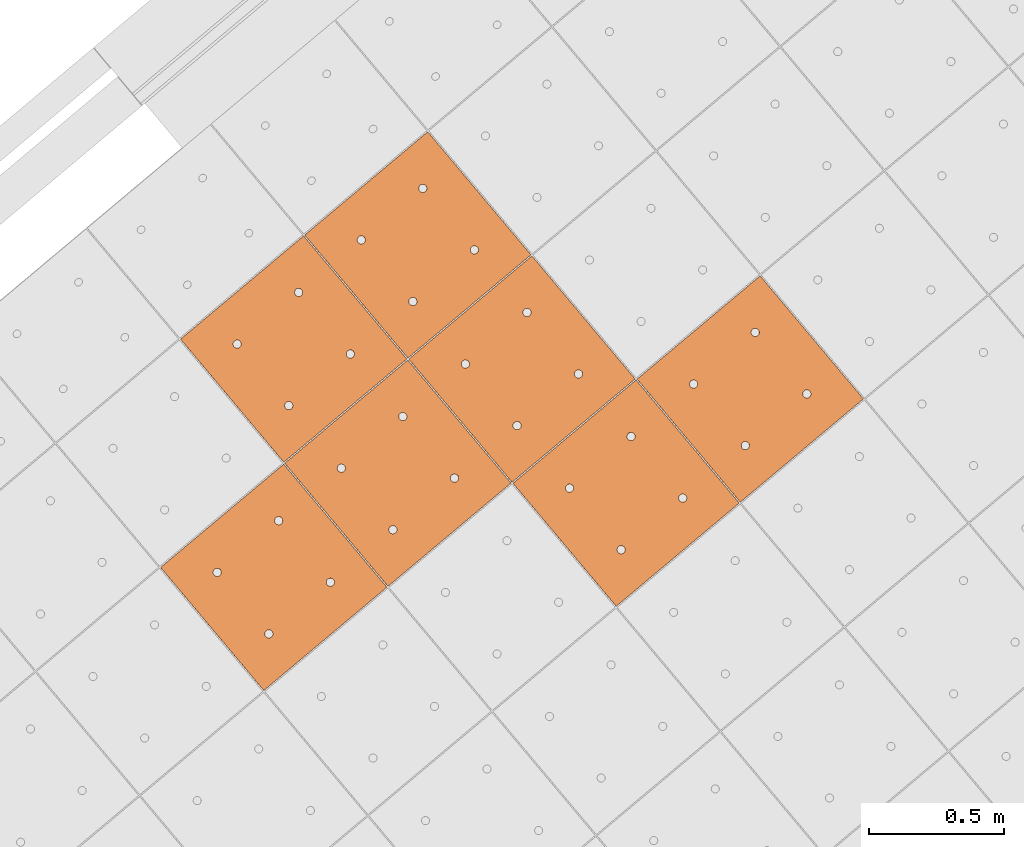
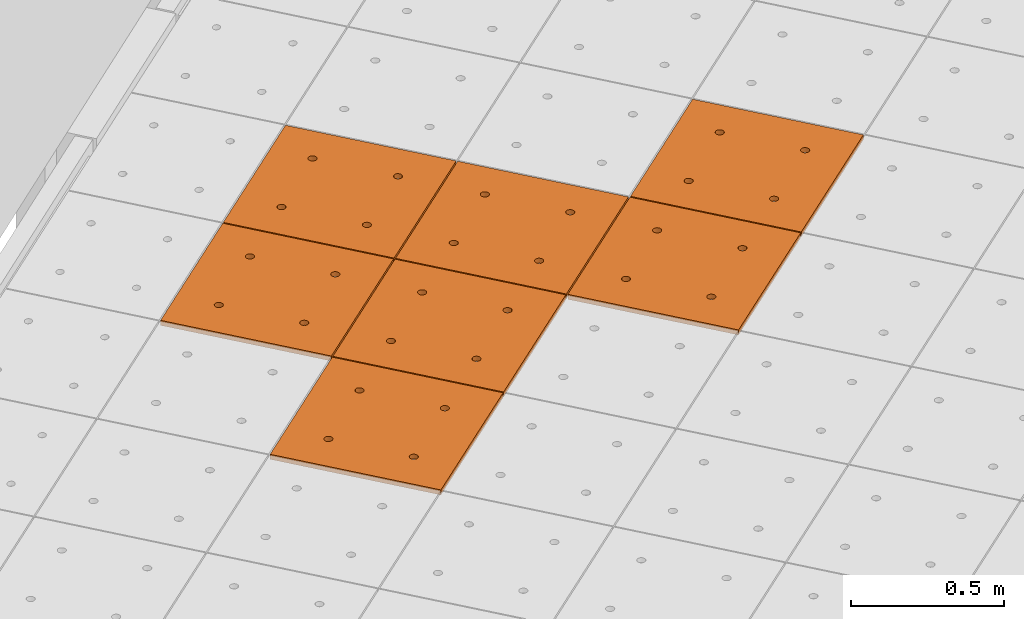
# One storey, part 171 of 338: 7 proxies, 1 element without a shape of its own.
"""IFC2X3 building model written with IfcOpenShell, lengths in millimetres."""

from ifc_helpers import new_model, entity, si_unit, converted_unit, derived_unit, money_unit, direction, frame, origin_with_axes, place, context, subcontext, project, spatial, faceted_brep, source, transform, mapped, material, type_object, type_shapes, element, aggregate, save


model = new_model("IFC2X3")

# Units and contexts
model_context = context("Model", 3, precision=0.01, world=origin_with_axes(), true_north=direction((0.0, 1.0)))
plan_context = context("Plan", 3, precision=0.01, world=origin_with_axes(), true_north=direction((0.0, 1.0)))
body_context = subcontext(model_context, "Body", "Model", "MODEL_VIEW")
ifc_project = project(units=[si_unit("LENGTHUNIT", "METRE", prefix="MILLI"), si_unit("AREAUNIT", "SQUARE_METRE"), si_unit("VOLUMEUNIT", "CUBIC_METRE"), converted_unit("PLANEANGLEUNIT", "DEGREE", entity("IfcPlaneAngleMeasure", 0.0174532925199), si_unit("PLANEANGLEUNIT", "RADIAN"), dimensions=[0, 0, 0, 0, 0, 0, 0]), money_unit("EUR"), converted_unit("TIMEUNIT", "Year", entity("IfcTimeMeasure", 31556926.0), si_unit("TIMEUNIT", "SECOND"), dimensions=[0, 0, 1, 0, 0, 0, 0]), si_unit("MASSUNIT", "GRAM", prefix="KILO"), si_unit("THERMODYNAMICTEMPERATUREUNIT", "DEGREE_CELSIUS"), si_unit("LUMINOUSINTENSITYUNIT", "LUMEN"), si_unit("ENERGYUNIT", "JOULE", prefix="MEGA"), derived_unit("THERMALCONDUCTANCEUNIT", [(si_unit("POWERUNIT", "WATT"), 1), (si_unit("LENGTHUNIT", "METRE"), -1), (si_unit("THERMODYNAMICTEMPERATUREUNIT", "KELVIN"), -1)]), derived_unit("SPECIFICHEATCAPACITYUNIT", [(si_unit("ENERGYUNIT", "JOULE"), 1), (si_unit("MASSUNIT", "GRAM", prefix="KILO"), -1), (si_unit("THERMODYNAMICTEMPERATUREUNIT", "KELVIN"), -1)]), derived_unit("MASSDENSITYUNIT", [(si_unit("MASSUNIT", "GRAM", prefix="KILO"), 1), (si_unit("VOLUMEUNIT", "CUBIC_METRE"), -1)])], contexts=[model_context, plan_context])

# Site, building, storey
site_placement = place(None, origin_with_axes())
site = spatial("IfcSite", under=ifc_project, at=site_placement, Name="Fortuinstraat Woensdrecht", CompositionType="ELEMENT")
building_placement = place(site_placement, origin_with_axes())
building = spatial("IfcBuilding", under=site, at=building_placement, Name="IKC Fortuna", CompositionType="ELEMENT")
storey_placement = place(building_placement, origin_with_axes())
storey = spatial("IfcBuildingStorey", under=building, at=storey_placement, Name="00 begane grond", CompositionType="ELEMENT", Elevation=0.0)

# Covering, proxies
covering_type = type_object("IfcCoveringType", Name="Curtain Wall Type", PredefinedType="CEILING")
covering_placement = place(storey_placement, frame((15863.124366, 4456.31398675, 4619.99995334), z_axis=(0.0, 0.0, 1.0), x_axis=(1.0, 0.0, 0.0)))
covering = element("IfcCovering", 1, at=covering_placement, inside=storey, type_object=covering_type, Name="45_Plafondafwerking_P01", PredefinedType="CEILING")
ifc_material = material(Name="Gipsplaat")
building_element_proxy_type = type_object("IfcBuildingElementProxyType", Name="Main Panel 600 x 600 x 20", PredefinedType="NOTDEFINED")
shared_shape = source(origin_with_axes(), body_context, "Body", "Brep", [
    faceted_brep([(2.50000262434, 2.50000269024, -10.0), (299.999999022, 2.50000269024, -10.0), (299.999999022, 2.50000269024, 10.0), (2.50000262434, 2.50000269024, 10.0), (2.50000262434, 300.000003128, -10.0), (2.50000262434, 597.500003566, -10.0), (299.999999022, 597.500003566, -10.0), (597.499995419, 597.500003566, -10.0), (597.499995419, 300.000003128, -10.0), (597.499995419, 2.50000269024, -10.0), (166.250000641, 450.062333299, -10.0), (165.794233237, 452.647118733, -10.0), (164.896546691, 455.113492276, -10.0), (163.584216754, 457.386514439, -10.0), (161.897117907, 459.397120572, -10.0), (159.886511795, 461.084219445, -10.0), (157.613489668, 462.396549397, -10.0), (155.147116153, 463.294235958, -10.0), (152.56233076, 463.750003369, -10.0), (149.937670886, 463.750003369, -10.0), (147.352885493, 463.294235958, -10.0), (144.886511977, 462.396549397, -10.0), (142.61348985, 461.084219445, -10.0), (140.602883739, 459.397120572, -10.0), (138.915784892, 457.386514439, -10.0), (137.603454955, 455.113492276, -10.0), (136.705768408, 452.647118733, -10.0), (136.250001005, 450.062333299, -10.0), (136.250001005, 448.750003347, -10.0), (136.250001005, 447.437673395, -10.0), (136.705768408, 444.852887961, -10.0), (137.603454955, 442.386514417, -10.0), (138.915784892, 440.113492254, -10.0), (140.602883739, 438.102886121, -10.0), (142.61348985, 436.415787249, -10.0), (144.886511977, 435.103457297, -10.0), (147.352885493, 434.205770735, -10.0), (149.937670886, 433.750003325, -10.0), (152.56233076, 433.750003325, -10.0), (155.147116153, 434.205770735, -10.0), (157.613489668, 435.103457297, -10.0), (159.886511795, 436.415787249, -10.0), (161.897117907, 438.102886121, -10.0), (163.584216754, 440.113492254, -10.0), (164.896546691, 442.386514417, -10.0), (165.794233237, 444.852887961, -10.0), (166.250000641, 447.437673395, -10.0), (463.749997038, 450.062333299, -10.0), (463.294229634, 452.647118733, -10.0), (462.396543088, 455.113492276, -10.0), (461.084213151, 457.386514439, -10.0), (459.397114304, 459.397120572, -10.0), (457.386508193, 461.084219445, -10.0), (455.113486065, 462.396549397, -10.0), (452.64711255, 463.294235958, -10.0), (450.062327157, 463.750003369, -10.0), (447.437667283, 463.750003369, -10.0), (444.85288189, 463.294235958, -10.0), (442.386508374, 462.396549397, -10.0), (440.113486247, 461.084219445, -10.0), (438.102880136, 459.397120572, -10.0), (436.415781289, 457.386514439, -10.0), (435.103451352, 455.113492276, -10.0), (434.205764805, 452.647118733, -10.0), (433.749997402, 450.062333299, -10.0), (433.749997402, 448.750003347, -10.0), (433.749997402, 447.437673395, -10.0), (434.205764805, 444.852887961, -10.0), (435.103451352, 442.386514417, -10.0), (436.415781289, 440.113492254, -10.0), (438.102880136, 438.102886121, -10.0), (440.113486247, 436.415787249, -10.0), (442.386508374, 435.103457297, -10.0), (444.85288189, 434.205770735, -10.0), (447.437667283, 433.750003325, -10.0), (450.062327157, 433.750003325, -10.0), (452.64711255, 434.205770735, -10.0), (455.113486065, 435.103457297, -10.0), (457.386508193, 436.415787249, -10.0), (459.397114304, 438.102886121, -10.0), (461.084213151, 440.113492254, -10.0), (462.396543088, 442.386514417, -10.0), (463.294229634, 444.852887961, -10.0), (463.749997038, 447.437673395, -10.0), (463.749997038, 152.562332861, -10.0), (463.294229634, 155.147118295, -10.0), (462.396543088, 157.613491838, -10.0), (461.084213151, 159.886514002, -10.0), (459.397114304, 161.897120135, -10.0), (457.386508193, 163.584219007, -10.0), (455.113486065, 164.896548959, -10.0), (452.64711255, 165.79423552, -10.0), (450.062327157, 166.250002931, -10.0), (447.437667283, 166.250002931, -10.0), (444.85288189, 165.79423552, -10.0), (442.386508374, 164.896548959, -10.0), (440.113486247, 163.584219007, -10.0), (438.102880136, 161.897120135, -10.0), (436.415781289, 159.886514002, -10.0), (435.103451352, 157.613491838, -10.0), (434.205764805, 155.147118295, -10.0), (433.749997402, 152.562332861, -10.0), (433.749997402, 151.250002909, -10.0), (433.749997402, 149.937672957, -10.0), (434.205764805, 147.352887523, -10.0), (435.103451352, 144.88651398, -10.0), (436.415781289, 142.613491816, -10.0), (438.102880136, 140.602885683, -10.0), (440.113486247, 138.915786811, -10.0), (442.386508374, 137.603456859, -10.0), (444.85288189, 136.705770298, -10.0), (447.437667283, 136.250002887, -10.0), (450.062327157, 136.250002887, -10.0), (452.64711255, 136.705770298, -10.0), (455.113486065, 137.603456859, -10.0), (457.386508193, 138.915786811, -10.0), (459.397114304, 140.602885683, -10.0), (461.084213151, 142.613491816, -10.0), (462.396543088, 144.88651398, -10.0), (463.294229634, 147.352887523, -10.0), (463.749997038, 149.937672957, -10.0), (166.250000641, 152.562332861, -10.0), (165.794233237, 155.147118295, -10.0), (164.896546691, 157.613491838, -10.0), (163.584216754, 159.886514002, -10.0), (161.897117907, 161.897120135, -10.0), (159.886511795, 163.584219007, -10.0), (157.613489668, 164.896548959, -10.0), (155.147116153, 165.79423552, -10.0), (152.56233076, 166.250002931, -10.0), (149.937670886, 166.250002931, -10.0), (147.352885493, 165.79423552, -10.0), (144.886511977, 164.896548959, -10.0), (142.61348985, 163.584219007, -10.0), (140.602883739, 161.897120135, -10.0), (138.915784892, 159.886514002, -10.0), (137.603454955, 157.613491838, -10.0), (136.705768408, 155.147118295, -10.0), (136.250001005, 152.562332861, -10.0), (136.250001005, 151.250002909, -10.0), (136.250001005, 149.937672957, -10.0), (136.705768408, 147.352887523, -10.0), (137.603454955, 144.88651398, -10.0), (138.915784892, 142.613491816, -10.0), (140.602883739, 140.602885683, -10.0), (142.61348985, 138.915786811, -10.0), (144.886511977, 137.603456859, -10.0), (147.352885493, 136.705770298, -10.0), (149.937670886, 136.250002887, -10.0), (152.56233076, 136.250002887, -10.0), (155.147116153, 136.705770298, -10.0), (157.613489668, 137.603456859, -10.0), (159.886511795, 138.915786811, -10.0), (161.897117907, 140.602885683, -10.0), (163.584216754, 142.613491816, -10.0), (164.896546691, 144.88651398, -10.0), (165.794233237, 147.352887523, -10.0), (166.250000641, 149.937672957, -10.0), (597.499995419, 2.50000269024, 10.0), (597.499995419, 300.000003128, 10.0), (597.499995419, 597.500003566, 10.0), (299.999999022, 597.500003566, 10.0), (2.50000262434, 597.500003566, 10.0), (2.50000262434, 300.000003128, 10.0), (166.250000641, 450.062333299, 10.0), (166.250000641, 447.437673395, 10.0), (165.794233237, 444.852887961, 10.0), (164.896546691, 442.386514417, 10.0), (163.584216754, 440.113492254, 10.0), (161.897117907, 438.102886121, 10.0), (159.886511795, 436.415787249, 10.0), (157.613489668, 435.103457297, 10.0), (155.147116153, 434.205770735, 10.0), (152.56233076, 433.750003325, 10.0), (149.937670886, 433.750003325, 10.0), (147.352885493, 434.205770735, 10.0), (144.886511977, 435.103457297, 10.0), (142.61348985, 436.415787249, 10.0), (140.602883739, 438.102886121, 10.0), (138.915784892, 440.113492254, 10.0), (137.603454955, 442.386514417, 10.0), (136.705768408, 444.852887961, 10.0), (136.250001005, 447.437673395, 10.0), (136.250001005, 448.750003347, 10.0), (136.250001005, 450.062333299, 10.0), (136.705768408, 452.647118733, 10.0), (137.603454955, 455.113492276, 10.0), (138.915784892, 457.386514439, 10.0), (140.602883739, 459.397120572, 10.0), (142.61348985, 461.084219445, 10.0), (144.886511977, 462.396549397, 10.0), (147.352885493, 463.294235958, 10.0), (149.937670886, 463.750003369, 10.0), (152.56233076, 463.750003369, 10.0), (155.147116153, 463.294235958, 10.0), (157.613489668, 462.396549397, 10.0), (159.886511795, 461.084219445, 10.0), (161.897117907, 459.397120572, 10.0), (163.584216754, 457.386514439, 10.0), (164.896546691, 455.113492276, 10.0), (165.794233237, 452.647118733, 10.0), (463.749997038, 450.062333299, 10.0), (463.749997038, 447.437673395, 10.0), (463.294229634, 444.852887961, 10.0), (462.396543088, 442.386514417, 10.0), (461.084213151, 440.113492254, 10.0), (459.397114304, 438.102886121, 10.0), (457.386508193, 436.415787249, 10.0), (455.113486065, 435.103457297, 10.0), (452.64711255, 434.205770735, 10.0), (450.062327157, 433.750003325, 10.0), (447.437667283, 433.750003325, 10.0), (444.85288189, 434.205770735, 10.0), (442.386508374, 435.103457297, 10.0), (440.113486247, 436.415787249, 10.0), (438.102880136, 438.102886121, 10.0), (436.415781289, 440.113492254, 10.0), (435.103451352, 442.386514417, 10.0), (434.205764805, 444.852887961, 10.0), (433.749997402, 447.437673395, 10.0), (433.749997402, 448.750003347, 10.0), (433.749997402, 450.062333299, 10.0), (434.205764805, 452.647118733, 10.0), (435.103451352, 455.113492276, 10.0), (436.415781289, 457.386514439, 10.0), (438.102880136, 459.397120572, 10.0), (440.113486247, 461.084219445, 10.0), (442.386508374, 462.396549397, 10.0), (444.85288189, 463.294235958, 10.0), (447.437667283, 463.750003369, 10.0), (450.062327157, 463.750003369, 10.0), (452.64711255, 463.294235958, 10.0), (455.113486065, 462.396549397, 10.0), (457.386508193, 461.084219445, 10.0), (459.397114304, 459.397120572, 10.0), (461.084213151, 457.386514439, 10.0), (462.396543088, 455.113492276, 10.0), (463.294229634, 452.647118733, 10.0), (463.749997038, 152.562332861, 10.0), (463.749997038, 149.937672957, 10.0), (463.294229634, 147.352887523, 10.0), (462.396543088, 144.88651398, 10.0), (461.084213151, 142.613491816, 10.0), (459.397114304, 140.602885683, 10.0), (457.386508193, 138.915786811, 10.0), (455.113486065, 137.603456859, 10.0), (452.64711255, 136.705770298, 10.0), (450.062327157, 136.250002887, 10.0), (447.437667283, 136.250002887, 10.0), (444.85288189, 136.705770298, 10.0), (442.386508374, 137.603456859, 10.0), (440.113486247, 138.915786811, 10.0), (438.102880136, 140.602885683, 10.0), (436.415781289, 142.613491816, 10.0), (435.103451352, 144.88651398, 10.0), (434.205764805, 147.352887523, 10.0), (433.749997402, 149.937672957, 10.0), (433.749997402, 151.250002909, 10.0), (433.749997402, 152.562332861, 10.0), (434.205764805, 155.147118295, 10.0), (435.103451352, 157.613491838, 10.0), (436.415781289, 159.886514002, 10.0), (438.102880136, 161.897120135, 10.0), (440.113486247, 163.584219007, 10.0), (442.386508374, 164.896548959, 10.0), (444.85288189, 165.79423552, 10.0), (447.437667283, 166.250002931, 10.0), (450.062327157, 166.250002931, 10.0), (452.64711255, 165.79423552, 10.0), (455.113486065, 164.896548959, 10.0), (457.386508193, 163.584219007, 10.0), (459.397114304, 161.897120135, 10.0), (461.084213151, 159.886514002, 10.0), (462.396543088, 157.613491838, 10.0), (463.294229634, 155.147118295, 10.0), (166.250000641, 152.562332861, 10.0), (166.250000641, 149.937672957, 10.0), (165.794233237, 147.352887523, 10.0), (164.896546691, 144.88651398, 10.0), (163.584216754, 142.613491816, 10.0), (161.897117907, 140.602885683, 10.0), (159.886511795, 138.915786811, 10.0), (157.613489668, 137.603456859, 10.0), (155.147116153, 136.705770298, 10.0), (152.56233076, 136.250002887, 10.0), (149.937670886, 136.250002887, 10.0), (147.352885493, 136.705770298, 10.0), (144.886511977, 137.603456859, 10.0), (142.61348985, 138.915786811, 10.0), (140.602883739, 140.602885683, 10.0), (138.915784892, 142.613491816, 10.0), (137.603454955, 144.88651398, 10.0), (136.705768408, 147.352887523, 10.0), (136.250001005, 149.937672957, 10.0), (136.250001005, 151.250002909, 10.0), (136.250001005, 152.562332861, 10.0), (136.705768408, 155.147118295, 10.0), (137.603454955, 157.613491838, 10.0), (138.915784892, 159.886514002, 10.0), (140.602883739, 161.897120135, 10.0), (142.61348985, 163.584219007, 10.0), (144.886511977, 164.896548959, 10.0), (147.352885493, 165.79423552, 10.0), (149.937670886, 166.250002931, 10.0), (152.56233076, 166.250002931, 10.0), (155.147116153, 165.79423552, 10.0), (157.613489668, 164.896548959, 10.0), (159.886511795, 163.584219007, 10.0), (161.897117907, 161.897120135, 10.0), (163.584216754, 159.886514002, 10.0), (164.896546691, 157.613491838, 10.0), (165.794233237, 155.147118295, 10.0)], [[[0, 1, 2, 3]], [[0, 4, 5, 6, 7, 8, 9, 1], [10, 11, 12, 13, 14, 15, 16, 17, 18, 19, 20, 21, 22, 23, 24, 25, 26, 27, 28, 29, 30, 31, 32, 33, 34, 35, 36, 37, 38, 39, 40, 41, 42, 43, 44, 45, 46], [47, 48, 49, 50, 51, 52, 53, 54, 55, 56, 57, 58, 59, 60, 61, 62, 63, 64, 65, 66, 67, 68, 69, 70, 71, 72, 73, 74, 75, 76, 77, 78, 79, 80, 81, 82, 83], [84, 85, 86, 87, 88, 89, 90, 91, 92, 93, 94, 95, 96, 97, 98, 99, 100, 101, 102, 103, 104, 105, 106, 107, 108, 109, 110, 111, 112, 113, 114, 115, 116, 117, 118, 119, 120], [121, 122, 123, 124, 125, 126, 127, 128, 129, 130, 131, 132, 133, 134, 135, 136, 137, 138, 139, 140, 141, 142, 143, 144, 145, 146, 147, 148, 149, 150, 151, 152, 153, 154, 155, 156, 157]], [[1, 9, 158, 2]], [[3, 2, 158, 159, 160, 161, 162, 163], [164, 165, 166, 167, 168, 169, 170, 171, 172, 173, 174, 175, 176, 177, 178, 179, 180, 181, 182, 183, 184, 185, 186, 187, 188, 189, 190, 191, 192, 193, 194, 195, 196, 197, 198, 199, 200], [201, 202, 203, 204, 205, 206, 207, 208, 209, 210, 211, 212, 213, 214, 215, 216, 217, 218, 219, 220, 221, 222, 223, 224, 225, 226, 227, 228, 229, 230, 231, 232, 233, 234, 235, 236, 237], [238, 239, 240, 241, 242, 243, 244, 245, 246, 247, 248, 249, 250, 251, 252, 253, 254, 255, 256, 257, 258, 259, 260, 261, 262, 263, 264, 265, 266, 267, 268, 269, 270, 271, 272, 273, 274], [275, 276, 277, 278, 279, 280, 281, 282, 283, 284, 285, 286, 287, 288, 289, 290, 291, 292, 293, 294, 295, 296, 297, 298, 299, 300, 301, 302, 303, 304, 305, 306, 307, 308, 309, 310, 311]], [[4, 0, 3, 163]], [[5, 4, 163, 162]], [[6, 5, 162, 161]], [[7, 6, 161, 160]], [[8, 7, 160, 159]], [[9, 8, 159, 158]], [[11, 10, 164, 200]], [[12, 11, 200, 199]], [[13, 12, 199, 198]], [[14, 13, 198, 197]], [[15, 14, 197, 196]], [[16, 15, 196, 195]], [[17, 16, 195, 194]], [[18, 17, 194, 193]], [[19, 18, 193, 192]], [[20, 19, 192, 191]], [[21, 20, 191, 190]], [[22, 21, 190, 189]], [[23, 22, 189, 188]], [[24, 23, 188, 187]], [[25, 24, 187, 186]], [[26, 25, 186, 185]], [[27, 26, 185, 184]], [[28, 27, 184, 183]], [[29, 28, 183, 182]], [[30, 29, 182, 181]], [[31, 30, 181, 180]], [[32, 31, 180, 179]], [[33, 32, 179, 178]], [[34, 33, 178, 177]], [[35, 34, 177, 176]], [[36, 35, 176, 175]], [[37, 36, 175, 174]], [[38, 37, 174, 173]], [[39, 38, 173, 172]], [[40, 39, 172, 171]], [[41, 40, 171, 170]], [[42, 41, 170, 169]], [[43, 42, 169, 168]], [[44, 43, 168, 167]], [[45, 44, 167, 166]], [[46, 45, 166, 165]], [[10, 46, 165, 164]], [[48, 47, 201, 237]], [[49, 48, 237, 236]], [[50, 49, 236, 235]], [[51, 50, 235, 234]], [[52, 51, 234, 233]], [[53, 52, 233, 232]], [[54, 53, 232, 231]], [[55, 54, 231, 230]], [[56, 55, 230, 229]], [[57, 56, 229, 228]], [[58, 57, 228, 227]], [[59, 58, 227, 226]], [[60, 59, 226, 225]], [[61, 60, 225, 224]], [[62, 61, 224, 223]], [[63, 62, 223, 222]], [[64, 63, 222, 221]], [[65, 64, 221, 220]], [[66, 65, 220, 219]], [[67, 66, 219, 218]], [[68, 67, 218, 217]], [[69, 68, 217, 216]], [[70, 69, 216, 215]], [[71, 70, 215, 214]], [[72, 71, 214, 213]], [[73, 72, 213, 212]], [[74, 73, 212, 211]], [[75, 74, 211, 210]], [[76, 75, 210, 209]], [[77, 76, 209, 208]], [[78, 77, 208, 207]], [[79, 78, 207, 206]], [[80, 79, 206, 205]], [[81, 80, 205, 204]], [[82, 81, 204, 203]], [[83, 82, 203, 202]], [[47, 83, 202, 201]], [[85, 84, 238, 274]], [[86, 85, 274, 273]], [[87, 86, 273, 272]], [[88, 87, 272, 271]], [[89, 88, 271, 270]], [[90, 89, 270, 269]], [[91, 90, 269, 268]], [[92, 91, 268, 267]], [[93, 92, 267, 266]], [[94, 93, 266, 265]], [[95, 94, 265, 264]], [[96, 95, 264, 263]], [[97, 96, 263, 262]], [[98, 97, 262, 261]], [[99, 98, 261, 260]], [[100, 99, 260, 259]], [[101, 100, 259, 258]], [[102, 101, 258, 257]], [[103, 102, 257, 256]], [[104, 103, 256, 255]], [[105, 104, 255, 254]], [[106, 105, 254, 253]], [[107, 106, 253, 252]], [[108, 107, 252, 251]], [[109, 108, 251, 250]], [[110, 109, 250, 249]], [[111, 110, 249, 248]], [[112, 111, 248, 247]], [[113, 112, 247, 246]], [[114, 113, 246, 245]], [[115, 114, 245, 244]], [[116, 115, 244, 243]], [[117, 116, 243, 242]], [[118, 117, 242, 241]], [[119, 118, 241, 240]], [[120, 119, 240, 239]], [[84, 120, 239, 238]], [[122, 121, 275, 311]], [[123, 122, 311, 310]], [[124, 123, 310, 309]], [[125, 124, 309, 308]], [[126, 125, 308, 307]], [[127, 126, 307, 306]], [[128, 127, 306, 305]], [[129, 128, 305, 304]], [[130, 129, 304, 303]], [[131, 130, 303, 302]], [[132, 131, 302, 301]], [[133, 132, 301, 300]], [[134, 133, 300, 299]], [[135, 134, 299, 298]], [[136, 135, 298, 297]], [[137, 136, 297, 296]], [[138, 137, 296, 295]], [[139, 138, 295, 294]], [[140, 139, 294, 293]], [[141, 140, 293, 292]], [[142, 141, 292, 291]], [[143, 142, 291, 290]], [[144, 143, 290, 289]], [[145, 144, 289, 288]], [[146, 145, 288, 287]], [[147, 146, 287, 286]], [[148, 147, 286, 285]], [[149, 148, 285, 284]], [[150, 149, 284, 283]], [[151, 150, 283, 282]], [[152, 151, 282, 281]], [[153, 152, 281, 280]], [[154, 153, 280, 279]], [[155, 154, 279, 278]], [[156, 155, 278, 277]], [[157, 156, 277, 276]], [[121, 157, 276, 275]]]),
])
type_shapes(building_element_proxy_type, [shared_shape])
proxy_1_placement = place(covering_placement, frame((-6071.50043153, 2387.07985017, 16.7597757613), z_axis=(0.0, 0.0, 1.0), x_axis=(0.642787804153, -0.766044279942, 0.0)))
proxy_1 = element("IfcBuildingElementProxy", 2, at=proxy_1_placement, type_object=building_element_proxy_type, material=ifc_material, Name="__600x949 Rockfon Krios", context=body_context, shape_type="MappedRepresentation", body=[
    mapped(shared_shape, transform((-300.0, 299.995617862, -1.62150043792), x_axis=(0.0, -0.999985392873, 0.00540500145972), y_axis=(1.0, 0.0, 0.0), z_axis=(0.0, 0.00540500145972, 0.999985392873))),
])
proxy_2_placement = place(covering_placement, frame((-6531.12028568, 2001.41280125, 20.0027766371), z_axis=(0.0, 0.0, 1.0), x_axis=(0.642787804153, -0.766044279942, 0.0)))
proxy_2 = element("IfcBuildingElementProxy", 3, at=proxy_2_placement, type_object=building_element_proxy_type, material=ifc_material, Name="__600x950 Rockfon Krios", context=body_context, shape_type="MappedRepresentation", body=[
    mapped(shared_shape, transform((-300.0, 299.995617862, -1.62150043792), x_axis=(0.0, -0.999985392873, 0.00540500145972), y_axis=(1.0, 0.0, 0.0), z_axis=(0.0, 0.00540500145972, 0.999985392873))),
])
proxy_3_placement = place(covering_placement, frame((-5685.82774904, 1927.45328221, 16.7597757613), z_axis=(0.0, 0.0, 1.0), x_axis=(0.642787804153, -0.766044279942, 0.0)))
proxy_3 = element("IfcBuildingElementProxy", 4, at=proxy_3_placement, type_object=building_element_proxy_type, material=ifc_material, Name="__600x962 Rockfon Krios", context=body_context, shape_type="MappedRepresentation", body=[
    mapped(shared_shape, transform((-300.0, 299.995617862, -1.62150043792), x_axis=(0.0, -0.999985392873, 0.00540500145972), y_axis=(1.0, 0.0, 0.0), z_axis=(0.0, 0.00540500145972, 0.999985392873))),
])
proxy_4_placement = place(covering_placement, frame((-6145.44760318, 1541.78623329, 20.0027766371), z_axis=(0.0, 0.0, 1.0), x_axis=(0.642787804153, -0.766044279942, 0.0)))
proxy_4 = element("IfcBuildingElementProxy", 5, at=proxy_4_placement, type_object=building_element_proxy_type, material=ifc_material, Name="__600x963 Rockfon Krios", context=body_context, shape_type="MappedRepresentation", body=[
    mapped(shared_shape, transform((-300.0, 299.995617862, -1.62150043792), x_axis=(0.0, -0.999985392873, 0.00540500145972), y_axis=(1.0, 0.0, 0.0), z_axis=(0.0, 0.00540500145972, 0.999985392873))),
])
proxy_5_placement = place(covering_placement, frame((-6605.06745733, 1156.11918437, 23.2457775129), z_axis=(0.0, 0.0, 1.0), x_axis=(0.642787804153, -0.766044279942, 0.0)))
proxy_5 = element("IfcBuildingElementProxy", 6, at=proxy_5_placement, type_object=building_element_proxy_type, material=ifc_material, Name="__600x964 Rockfon Krios", context=body_context, shape_type="MappedRepresentation", body=[
    mapped(shared_shape, transform((-300.0, 299.995617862, -1.62150043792), x_axis=(0.0, -0.999985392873, 0.00540500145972), y_axis=(1.0, 0.0, 0.0), z_axis=(0.0, 0.00540500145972, 0.999985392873))),
])
proxy_6_placement = place(covering_placement, frame((-4840.53521241, 1853.49376317, 13.5167748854), z_axis=(0.0, 0.0, 1.0), x_axis=(0.642787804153, -0.766044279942, 0.0)))
proxy_6 = element("IfcBuildingElementProxy", 7, at=proxy_6_placement, type_object=building_element_proxy_type, material=ifc_material, Name="__600x974 Rockfon Krios", context=body_context, shape_type="MappedRepresentation", body=[
    mapped(shared_shape, transform((-300.0, 299.995617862, -1.62150043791), x_axis=(0.0, -0.999985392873, 0.00540500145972), y_axis=(1.0, 0.0, 0.0), z_axis=(0.0, 0.00540500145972, 0.999985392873))),
])
proxy_7_placement = place(covering_placement, frame((-5300.15506655, 1467.82671424, 16.7597757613), z_axis=(0.0, 0.0, 1.0), x_axis=(0.642787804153, -0.766044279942, 0.0)))
proxy_7 = element("IfcBuildingElementProxy", 8, at=proxy_7_placement, type_object=building_element_proxy_type, material=ifc_material, Name="__600x975 Rockfon Krios", context=body_context, shape_type="MappedRepresentation", body=[
    mapped(shared_shape, transform((-300.0, 299.995617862, -1.62150043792), x_axis=(0.0, -0.999985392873, 0.00540500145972), y_axis=(1.0, 0.0, 0.0), z_axis=(0.0, 0.00540500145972, 0.999985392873))),
])
aggregate(covering, [proxy_1, proxy_2, proxy_3, proxy_4, proxy_5, proxy_6, proxy_7])

save(model, "model.ifc")
